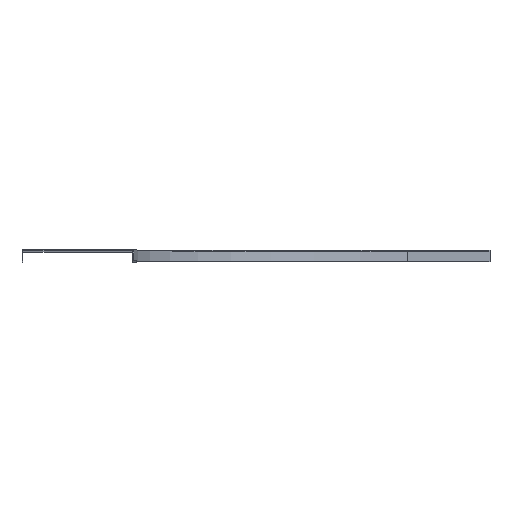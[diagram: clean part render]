
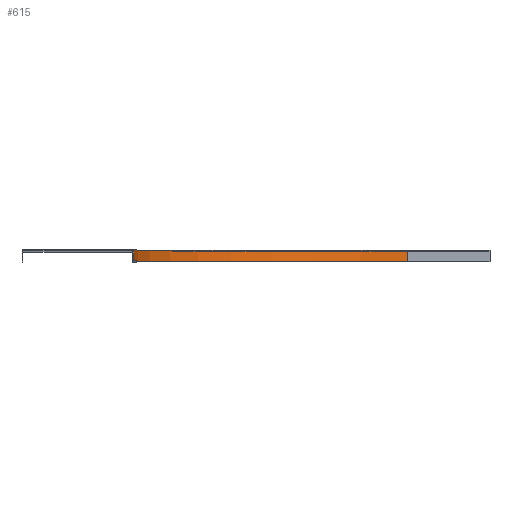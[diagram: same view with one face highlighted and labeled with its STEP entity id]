
A CAD part, top view. The second image highlights one B-rep face of the part: STEP entity #615.
In plain terms, the highlighted cylindrical face has radius 498.5 mm (diameter 997 mm), a partial arc.
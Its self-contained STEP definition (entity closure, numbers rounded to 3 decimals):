
#40 = ORIENTED_EDGE ( 'NONE', *, *, #456, .T. ) ;
#122 = CARTESIAN_POINT ( 'NONE',  ( -498.5, 0., 0. ) ) ;
#129 = CARTESIAN_POINT ( 'NONE',  ( 0., -20., -498.5 ) ) ;
#159 = VERTEX_POINT ( 'NONE', #129 ) ;
#164 = ORIENTED_EDGE ( 'NONE', *, *, #744, .F. ) ;
#166 = LINE ( 'NONE', #360, #526 ) ;
#356 = DIRECTION ( 'NONE',  ( 0., 0., -1. ) ) ;
#360 = CARTESIAN_POINT ( 'NONE',  ( -498.5, -20., 0. ) ) ;
#385 = CARTESIAN_POINT ( 'NONE',  ( -498.5, -20., 0. ) ) ;
#392 = VERTEX_POINT ( 'NONE', #122 ) ;
#403 = DIRECTION ( 'NONE',  ( 0., 1., 0. ) ) ;
#414 = VERTEX_POINT ( 'NONE', #385 ) ;
#423 = DIRECTION ( 'NONE',  ( 0., 0., -1. ) ) ;
#427 = CARTESIAN_POINT ( 'NONE',  ( 0., 0., -498.5 ) ) ;
#450 = CIRCLE ( 'NONE', #1034, 498.5 ) ;
#456 = EDGE_CURVE ( 'NONE', #159, #699, #646, .T. ) ;
#485 = FACE_OUTER_BOUND ( 'NONE', #639, .T. ) ;
#500 = DIRECTION ( 'NONE',  ( 0., 0., 1. ) ) ;
#502 = ORIENTED_EDGE ( 'NONE', *, *, #683, .F. ) ;
#526 = VECTOR ( 'NONE', #1120, 1000. ) ;
#536 = CARTESIAN_POINT ( 'NONE',  ( 0., 0., 0. ) ) ;
#615 = ADVANCED_FACE ( 'NONE', ( #485 ), #763, .F. ) ;
#639 = EDGE_LOOP ( 'NONE', ( #502, #164, #1046, #40 ) ) ;
#646 = LINE ( 'NONE', #651, #1051 ) ;
#651 = CARTESIAN_POINT ( 'NONE',  ( 0., -20., -498.5 ) ) ;
#683 = EDGE_CURVE ( 'NONE', #392, #699, #830, .T. ) ;
#692 = CARTESIAN_POINT ( 'NONE',  ( 0., -20., 0. ) ) ;
#699 = VERTEX_POINT ( 'NONE', #427 ) ;
#705 = DIRECTION ( 'NONE',  ( 0., -1., 0. ) ) ;
#744 = EDGE_CURVE ( 'NONE', #414, #392, #166, .T. ) ;
#763 = CYLINDRICAL_SURFACE ( 'NONE', #905, 498.5 ) ;
#788 = DIRECTION ( 'NONE',  ( 0., -1., 0. ) ) ;
#806 = EDGE_CURVE ( 'NONE', #414, #159, #450, .T. ) ;
#827 = CARTESIAN_POINT ( 'NONE',  ( 0., -20., 0. ) ) ;
#830 = CIRCLE ( 'NONE', #870, 498.5 ) ;
#870 = AXIS2_PLACEMENT_3D ( 'NONE', #536, #705, #423 ) ;
#905 = AXIS2_PLACEMENT_3D ( 'NONE', #827, #403, #500 ) ;
#990 = DIRECTION ( 'NONE',  ( 0., 1., 0. ) ) ;
#1034 = AXIS2_PLACEMENT_3D ( 'NONE', #692, #788, #356 ) ;
#1046 = ORIENTED_EDGE ( 'NONE', *, *, #806, .T. ) ;
#1051 = VECTOR ( 'NONE', #990, 1000. ) ;
#1120 = DIRECTION ( 'NONE',  ( 0., 1., 0. ) ) ;
